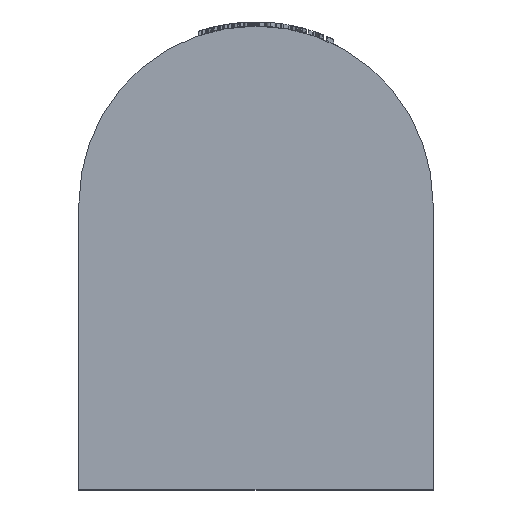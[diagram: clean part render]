
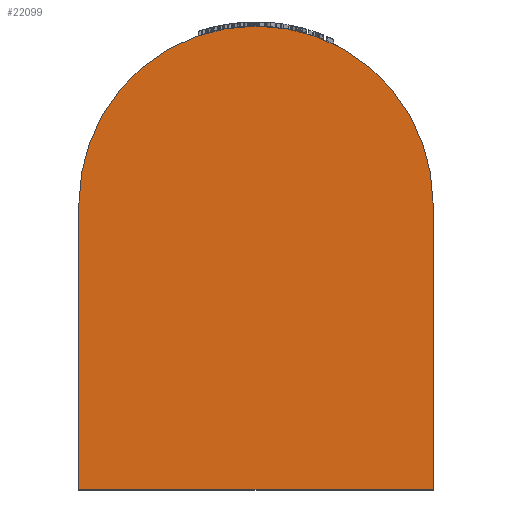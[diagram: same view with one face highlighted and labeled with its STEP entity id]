
A CAD part, top view. The second image highlights one B-rep face of the part: STEP entity #22099.
In plain terms, the highlighted planar face has unit normal (0, 0, 1).
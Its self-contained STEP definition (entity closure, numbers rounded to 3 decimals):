
#3020=LINE('',#47538,#4629);
#3021=LINE('',#47542,#4630);
#3022=LINE('',#47543,#4631);
#4629=VECTOR('',#28282,10.);
#4630=VECTOR('',#28285,10.);
#4631=VECTOR('',#28286,10.);
#6025=FACE_OUTER_BOUND('',#7319,.T.);
#7319=EDGE_LOOP('',(#18934,#18935,#18936,#18937));
#7946=CIRCLE('',#23778,42.);
#9882=VERTEX_POINT('',#47536);
#9883=VERTEX_POINT('',#47537);
#9884=VERTEX_POINT('',#47539);
#9885=VERTEX_POINT('',#47541);
#12974=EDGE_CURVE('',#9882,#9883,#3020,.T.);
#12975=EDGE_CURVE('',#9884,#9882,#7946,.T.);
#12976=EDGE_CURVE('',#9885,#9884,#3021,.T.);
#12977=EDGE_CURVE('',#9883,#9885,#3022,.T.);
#18934=ORIENTED_EDGE('',*,*,#12974,.F.);
#18935=ORIENTED_EDGE('',*,*,#12975,.F.);
#18936=ORIENTED_EDGE('',*,*,#12976,.F.);
#18937=ORIENTED_EDGE('',*,*,#12977,.F.);
#20737=PLANE('',#23777);
#22099=ADVANCED_FACE('',(#6025),#20737,.T.);
#23777=AXIS2_PLACEMENT_3D('',#47535,#28280,#28281);
#23778=AXIS2_PLACEMENT_3D('',#47540,#28283,#28284);
#28280=DIRECTION('center_axis',(0.,0.,1.));
#28281=DIRECTION('ref_axis',(1.,0.,0.));
#28282=DIRECTION('',(0.,-1.,0.));
#28283=DIRECTION('center_axis',(0.,0.,-1.));
#28284=DIRECTION('ref_axis',(-1.,0.,0.));
#28285=DIRECTION('',(0.,1.,0.));
#28286=DIRECTION('',(-1.,0.,0.));
#47535=CARTESIAN_POINT('Origin',(0.,47.67,
49.));
#47536=CARTESIAN_POINT('',(42.,68.,49.));
#47537=CARTESIAN_POINT('',(42.,0.,49.));
#47538=CARTESIAN_POINT('',(42.,68.,49.));
#47539=CARTESIAN_POINT('',(-42.,68.,49.));
#47540=CARTESIAN_POINT('Origin',(0.,68.,49.));
#47541=CARTESIAN_POINT('',(-42.,0.,49.));
#47542=CARTESIAN_POINT('',(-42.,0.,49.));
#47543=CARTESIAN_POINT('',(42.,0.,49.));
